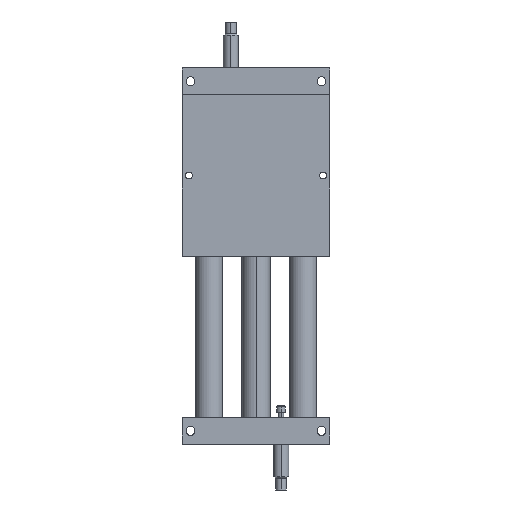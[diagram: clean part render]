
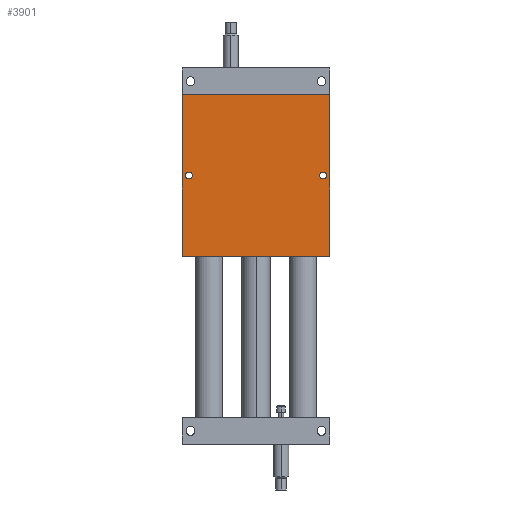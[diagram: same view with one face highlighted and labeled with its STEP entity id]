
A CAD part, front view. The second image highlights one B-rep face of the part: STEP entity #3901.
In plain terms, the highlighted planar face has unit normal (0, -1, 0).
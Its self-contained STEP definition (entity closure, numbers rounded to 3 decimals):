
#65 = ORIENTED_EDGE ( 'NONE', *, *, #4133, .F. ) ;
#85 = DIRECTION ( 'NONE',  ( 0., 1., 0. ) ) ;
#135 = ORIENTED_EDGE ( 'NONE', *, *, #4444, .F. ) ;
#156 = CIRCLE ( 'NONE', #3444, 3.264 ) ;
#187 = VERTEX_POINT ( 'NONE', #250 ) ;
#250 = CARTESIAN_POINT ( 'NONE',  ( 69.85, -22.225, -76.2 ) ) ;
#283 = CARTESIAN_POINT ( 'NONE',  ( -69.85, -22.225, 76.2 ) ) ;
#349 = VECTOR ( 'NONE', #3089, 1000. ) ;
#415 = CARTESIAN_POINT ( 'NONE',  ( -69.85, -22.225, 76.2 ) ) ;
#471 = EDGE_LOOP ( 'NONE', ( #2515, #818 ) ) ;
#559 = DIRECTION ( 'NONE',  ( 0., 1., 0. ) ) ;
#683 = ORIENTED_EDGE ( 'NONE', *, *, #2680, .T. ) ;
#684 = VECTOR ( 'NONE', #1471, 1000. ) ;
#787 = CIRCLE ( 'NONE', #3351, 3.264 ) ;
#818 = ORIENTED_EDGE ( 'NONE', *, *, #4070, .T. ) ;
#902 = VERTEX_POINT ( 'NONE', #2379 ) ;
#908 = CARTESIAN_POINT ( 'NONE',  ( -69.85, -22.225, -76.2 ) ) ;
#998 = EDGE_CURVE ( 'NONE', #2269, #187, #1268, .T. ) ;
#1151 = CARTESIAN_POINT ( 'NONE',  ( 63.5, -22.225, 3.264 ) ) ;
#1268 = LINE ( 'NONE', #1526, #349 ) ;
#1365 = VERTEX_POINT ( 'NONE', #1151 ) ;
#1428 = DIRECTION ( 'NONE',  ( 0., 1., 0. ) ) ;
#1471 = DIRECTION ( 'NONE',  ( 1., 0., 0. ) ) ;
#1526 = CARTESIAN_POINT ( 'NONE',  ( 69.85, -22.225, -76.2 ) ) ;
#1561 = LINE ( 'NONE', #908, #4218 ) ;
#1611 = ORIENTED_EDGE ( 'NONE', *, *, #998, .F. ) ;
#1614 = LINE ( 'NONE', #415, #684 ) ;
#1676 = CARTESIAN_POINT ( 'NONE',  ( 63.5, -22.225, 0. ) ) ;
#1716 = AXIS2_PLACEMENT_3D ( 'NONE', #3525, #1428, #3866 ) ;
#1727 = LINE ( 'NONE', #2870, #3477 ) ;
#1834 = CARTESIAN_POINT ( 'NONE',  ( 63.5, -22.225, -3.264 ) ) ;
#1892 = FACE_BOUND ( 'NONE', #4463, .T. ) ;
#1940 = CIRCLE ( 'NONE', #1716, 3.264 ) ;
#1986 = CARTESIAN_POINT ( 'NONE',  ( -63.5, -22.225, 3.264 ) ) ;
#2012 = VERTEX_POINT ( 'NONE', #4435 ) ;
#2021 = DIRECTION ( 'NONE',  ( 0., 0., 1. ) ) ;
#2135 = VERTEX_POINT ( 'NONE', #1986 ) ;
#2155 = CARTESIAN_POINT ( 'NONE',  ( -63.5, -22.225, 0. ) ) ;
#2269 = VERTEX_POINT ( 'NONE', #3046 ) ;
#2348 = CARTESIAN_POINT ( 'NONE',  ( -69.85, -22.225, 76.2 ) ) ;
#2368 = DIRECTION ( 'NONE',  ( 0., 0., 1. ) ) ;
#2379 = CARTESIAN_POINT ( 'NONE',  ( -63.5, -22.225, -3.264 ) ) ;
#2514 = DIRECTION ( 'NONE',  ( 0., 0., 1. ) ) ;
#2515 = ORIENTED_EDGE ( 'NONE', *, *, #4007, .T. ) ;
#2588 = VERTEX_POINT ( 'NONE', #1834 ) ;
#2650 = DIRECTION ( 'NONE',  ( 0., 0., 1. ) ) ;
#2680 = EDGE_CURVE ( 'NONE', #1365, #2588, #4402, .T. ) ;
#2684 = DIRECTION ( 'NONE',  ( -1., 0., 0. ) ) ;
#2832 = FACE_BOUND ( 'NONE', #471, .T. ) ;
#2856 = EDGE_LOOP ( 'NONE', ( #65, #135, #1611, #3732 ) ) ;
#2870 = CARTESIAN_POINT ( 'NONE',  ( -69.85, -22.225, -76.2 ) ) ;
#3003 = CARTESIAN_POINT ( 'NONE',  ( 63.5, -22.225, 0. ) ) ;
#3040 = ORIENTED_EDGE ( 'NONE', *, *, #3907, .T. ) ;
#3046 = CARTESIAN_POINT ( 'NONE',  ( 69.85, -22.225, 76.2 ) ) ;
#3089 = DIRECTION ( 'NONE',  ( 0., 0., -1. ) ) ;
#3099 = AXIS2_PLACEMENT_3D ( 'NONE', #3003, #559, #2650 ) ;
#3351 = AXIS2_PLACEMENT_3D ( 'NONE', #2155, #85, #2514 ) ;
#3444 = AXIS2_PLACEMENT_3D ( 'NONE', #1676, #4108, #2021 ) ;
#3477 = VECTOR ( 'NONE', #3551, 1000. ) ;
#3525 = CARTESIAN_POINT ( 'NONE',  ( -63.5, -22.225, 0. ) ) ;
#3551 = DIRECTION ( 'NONE',  ( 0., 0., 1. ) ) ;
#3732 = ORIENTED_EDGE ( 'NONE', *, *, #4152, .F. ) ;
#3758 = FACE_OUTER_BOUND ( 'NONE', #2856, .T. ) ;
#3866 = DIRECTION ( 'NONE',  ( 0., 0., 1. ) ) ;
#3901 = ADVANCED_FACE ( 'NONE', ( #2832, #1892, #3758 ), #4092, .F. ) ;
#3907 = EDGE_CURVE ( 'NONE', #2588, #1365, #156, .T. ) ;
#4007 = EDGE_CURVE ( 'NONE', #2135, #902, #1940, .T. ) ;
#4070 = EDGE_CURVE ( 'NONE', #902, #2135, #787, .T. ) ;
#4092 = PLANE ( 'NONE',  #4129 ) ;
#4108 = DIRECTION ( 'NONE',  ( 0., 1., 0. ) ) ;
#4129 = AXIS2_PLACEMENT_3D ( 'NONE', #2348, #4438, #2368 ) ;
#4133 = EDGE_CURVE ( 'NONE', #2012, #4476, #1727, .T. ) ;
#4152 = EDGE_CURVE ( 'NONE', #4476, #2269, #1614, .T. ) ;
#4218 = VECTOR ( 'NONE', #2684, 1000. ) ;
#4402 = CIRCLE ( 'NONE', #3099, 3.264 ) ;
#4435 = CARTESIAN_POINT ( 'NONE',  ( -69.85, -22.225, -76.2 ) ) ;
#4438 = DIRECTION ( 'NONE',  ( 0., 1., 0. ) ) ;
#4444 = EDGE_CURVE ( 'NONE', #187, #2012, #1561, .T. ) ;
#4463 = EDGE_LOOP ( 'NONE', ( #683, #3040 ) ) ;
#4476 = VERTEX_POINT ( 'NONE', #283 ) ;
